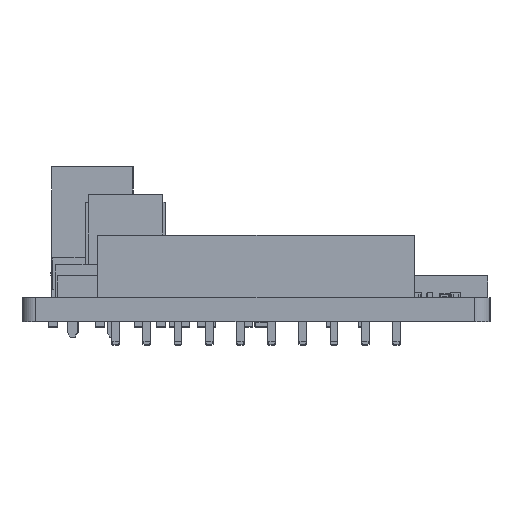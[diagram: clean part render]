
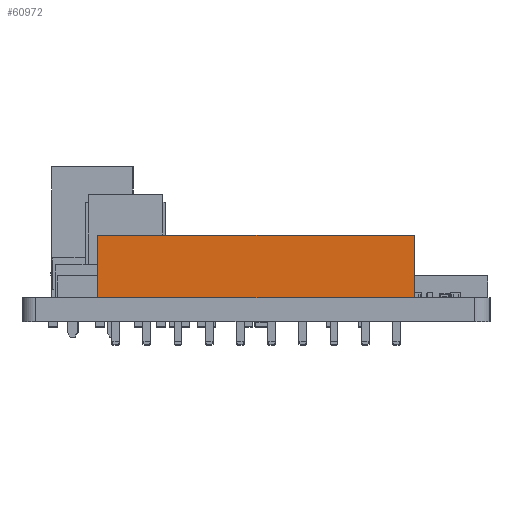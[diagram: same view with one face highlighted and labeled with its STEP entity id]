
A CAD part, left-side view. The second image highlights one B-rep face of the part: STEP entity #60972.
In plain terms, the highlighted planar face has unit normal (-1, 0, 0).
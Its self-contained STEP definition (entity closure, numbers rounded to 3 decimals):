
#59541 = EDGE_CURVE('',#59542,#59544,#59546,.T.);
#59542 = VERTEX_POINT('',#59543);
#59543 = CARTESIAN_POINT('',(-3.174,10.149,0.));
#59544 = VERTEX_POINT('',#59545);
#59545 = CARTESIAN_POINT('',(-3.174,10.149,4.));
#59546 = LINE('',#59547,#59548);
#59547 = CARTESIAN_POINT('',(-3.174,10.149,0.));
#59548 = VECTOR('',#59549,1.);
#59549 = DIRECTION('',(0.,0.,1.));
#60947 = VERTEX_POINT('',#60948);
#60948 = CARTESIAN_POINT('',(-3.174,-10.149,4.));
#60954 = EDGE_CURVE('',#60955,#60947,#60957,.T.);
#60955 = VERTEX_POINT('',#60956);
#60956 = CARTESIAN_POINT('',(-3.174,-10.149,0.));
#60957 = LINE('',#60958,#60959);
#60958 = CARTESIAN_POINT('',(-3.174,-10.149,0.));
#60959 = VECTOR('',#60960,1.);
#60960 = DIRECTION('',(0.,0.,1.));
#60972 = ADVANCED_FACE('',(#60973),#60989,.T.);
#60973 = FACE_BOUND('',#60974,.T.);
#60974 = EDGE_LOOP('',(#60975,#60976,#60982,#60983));
#60975 = ORIENTED_EDGE('',*,*,#60954,.T.);
#60976 = ORIENTED_EDGE('',*,*,#60977,.T.);
#60977 = EDGE_CURVE('',#60947,#59544,#60978,.T.);
#60978 = LINE('',#60979,#60980);
#60979 = CARTESIAN_POINT('',(-3.174,-10.149,4.));
#60980 = VECTOR('',#60981,1.);
#60981 = DIRECTION('',(0.,1.,0.));
#60982 = ORIENTED_EDGE('',*,*,#59541,.F.);
#60983 = ORIENTED_EDGE('',*,*,#60984,.F.);
#60984 = EDGE_CURVE('',#60955,#59542,#60985,.T.);
#60985 = LINE('',#60986,#60987);
#60986 = CARTESIAN_POINT('',(-3.174,-10.149,0.));
#60987 = VECTOR('',#60988,1.);
#60988 = DIRECTION('',(0.,1.,0.));
#60989 = PLANE('',#60990);
#60990 = AXIS2_PLACEMENT_3D('',#60991,#60992,#60993);
#60991 = CARTESIAN_POINT('',(-3.174,-10.149,0.));
#60992 = DIRECTION('',(-1.,0.,0.));
#60993 = DIRECTION('',(0.,1.,0.));
